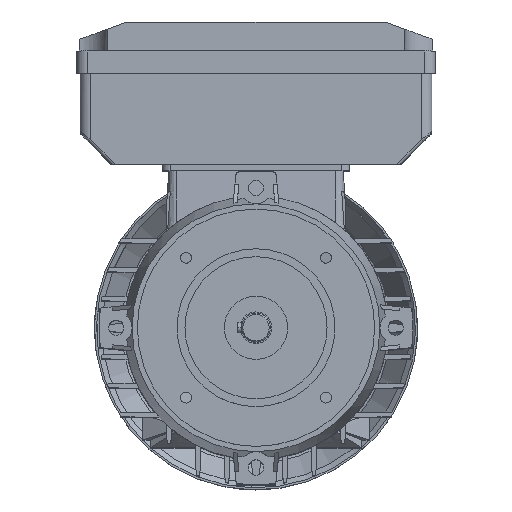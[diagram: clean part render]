
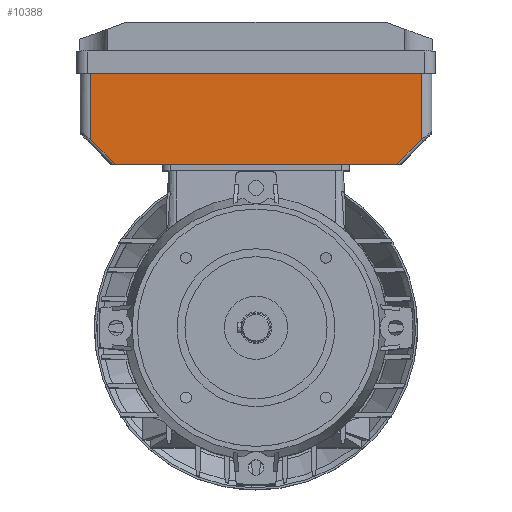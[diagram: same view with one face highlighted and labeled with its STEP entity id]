
A CAD part, top view. The second image highlights one B-rep face of the part: STEP entity #10388.
In plain terms, the highlighted planar face has unit normal (0, 0, 1).
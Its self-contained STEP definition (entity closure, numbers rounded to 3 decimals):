
#3807 = EDGE_LOOP ( 'NONE', ( #22157, #22158, #22159, #22160, #22161, #22162 ) ) ;
#7766 = PLANE ( 'NONE',  #10842 ) ;
#7768 = CARTESIAN_POINT ( 'NONE',  ( -66.75, 39., 0. ) ) ;
#7772 = DIRECTION ( 'NONE',  ( 0., 0., -1. ) ) ;
#7773 = DIRECTION ( 'NONE',  ( -1., 0., 0. ) ) ;
#9193 = FACE_OUTER_BOUND ( 'NONE', #3807, .T. ) ;
#10388 = ADVANCED_FACE ( 'NONE', ( #9193 ), #7766, .F. ) ;
#10842 = AXIS2_PLACEMENT_3D ( 'NONE', #7768, #7772, #7773 ) ;
#21392 = VERTEX_POINT ( 'NONE', #28919 ) ;
#21393 = VERTEX_POINT ( 'NONE', #28920 ) ;
#21401 = VERTEX_POINT ( 'NONE', #28928 ) ;
#21404 = VERTEX_POINT ( 'NONE', #28931 ) ;
#21412 = VERTEX_POINT ( 'NONE', #28939 ) ;
#21424 = VERTEX_POINT ( 'NONE', #28951 ) ;
#22157 = ORIENTED_EDGE ( 'NONE', *, *, #23216, .T. ) ;
#22158 = ORIENTED_EDGE ( 'NONE', *, *, #23305, .T. ) ;
#22159 = ORIENTED_EDGE ( 'NONE', *, *, #23307, .T. ) ;
#22160 = ORIENTED_EDGE ( 'NONE', *, *, #23271, .T. ) ;
#22161 = ORIENTED_EDGE ( 'NONE', *, *, #23309, .T. ) ;
#22162 = ORIENTED_EDGE ( 'NONE', *, *, #23312, .T. ) ;
#23216 = EDGE_CURVE ( 'NONE', #21392, #21393, #29442, .T. ) ;
#23271 = EDGE_CURVE ( 'NONE', #21404, #21412, #29479, .T. ) ;
#23305 = EDGE_CURVE ( 'NONE', #21393, #21401, #29507, .T. ) ;
#23307 = EDGE_CURVE ( 'NONE', #21401, #21404, #29509, .T. ) ;
#23309 = EDGE_CURVE ( 'NONE', #21412, #21424, #29511, .T. ) ;
#23312 = EDGE_CURVE ( 'NONE', #21424, #21392, #29513, .T. ) ;
#28919 = CARTESIAN_POINT ( 'NONE',  ( -53.336, 0., 0. ) ) ;
#28920 = CARTESIAN_POINT ( 'NONE',  ( 53.336, 0., 0. ) ) ;
#28928 = CARTESIAN_POINT ( 'NONE',  ( 62.75, 9.414, 0. ) ) ;
#28931 = CARTESIAN_POINT ( 'NONE',  ( 62.75, 39., 0. ) ) ;
#28939 = CARTESIAN_POINT ( 'NONE',  ( -62.75, 39., 0. ) ) ;
#28951 = CARTESIAN_POINT ( 'NONE',  ( -62.75, 9.414, 0. ) ) ;
#29442 = LINE ( 'NONE', #30788, #29444 ) ;
#29444 = VECTOR ( 'NONE', #30792, 1000. ) ;
#29479 = LINE ( 'NONE', #30926, #29481 ) ;
#29481 = VECTOR ( 'NONE', #30927, 1000. ) ;
#29507 = LINE ( 'NONE', #31020, #29510 ) ;
#29509 = LINE ( 'NONE', #31025, #29512 ) ;
#29510 = VECTOR ( 'NONE', #31023, 1000. ) ;
#29511 = LINE ( 'NONE', #31030, #29514 ) ;
#29512 = VECTOR ( 'NONE', #31028, 1000. ) ;
#29513 = LINE ( 'NONE', #31035, #29515 ) ;
#29514 = VECTOR ( 'NONE', #31033, 1000. ) ;
#29515 = VECTOR ( 'NONE', #31038, 1000. ) ;
#30788 = CARTESIAN_POINT ( 'NONE',  ( -66.75, 0., 0. ) ) ;
#30792 = DIRECTION ( 'NONE',  ( 1., 0., 0. ) ) ;
#30926 = CARTESIAN_POINT ( 'NONE',  ( -66.75, 39., 0. ) ) ;
#30927 = DIRECTION ( 'NONE',  ( -1., 0., 0. ) ) ;
#31020 = CARTESIAN_POINT ( 'NONE',  ( 62.043, 8.707, 0. ) ) ;
#31023 = DIRECTION ( 'NONE',  ( 0.707, 0.707, 0. ) ) ;
#31025 = CARTESIAN_POINT ( 'NONE',  ( 62.75, 39., 0. ) ) ;
#31028 = DIRECTION ( 'NONE',  ( 0., 1., 0. ) ) ;
#31030 = CARTESIAN_POINT ( 'NONE',  ( -62.75, 12., 0. ) ) ;
#31033 = DIRECTION ( 'NONE',  ( 0., -1., 0. ) ) ;
#31035 = CARTESIAN_POINT ( 'NONE',  ( -54.043, 0.707, 0. ) ) ;
#31038 = DIRECTION ( 'NONE',  ( 0.707, -0.707, 0. ) ) ;
